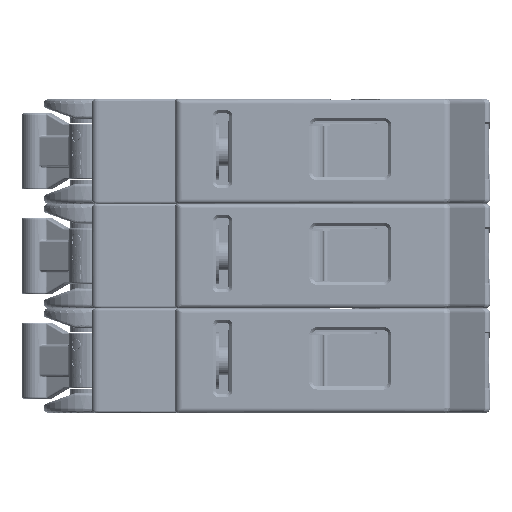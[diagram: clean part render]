
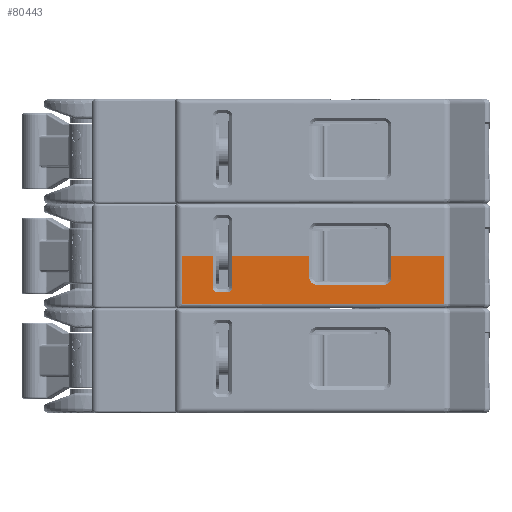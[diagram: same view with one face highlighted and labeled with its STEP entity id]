
A CAD part, left-side view. The second image highlights one B-rep face of the part: STEP entity #80443.
In plain terms, the highlighted planar face has unit normal (-1, 0, 0).
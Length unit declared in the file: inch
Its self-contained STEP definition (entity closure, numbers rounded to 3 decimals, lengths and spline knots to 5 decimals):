
#76316=CARTESIAN_POINT('',(-1.73,-1.231,-0.688));
#76317=VERTEX_POINT('',#76316);
#76325=CARTESIAN_POINT('',(-1.73,-1.231,-0.827));
#76326=VERTEX_POINT('',#76325);
#76333=CARTESIAN_POINT('',(-1.73,-1.231,-0.688));
#76334=DIRECTION('',(0.0,0.0,-1.0));
#76335=VECTOR('',#76334,0.139);
#76336=LINE('',#76333,#76335);
#76337=EDGE_CURVE('',#76317,#76326,#76336,.T.);
#76348=CARTESIAN_POINT('',(-1.73,-1.57461,-0.688));
#76349=VERTEX_POINT('',#76348);
#76350=CARTESIAN_POINT('',(-1.73,-1.57461,-0.688));
#76351=DIRECTION('',(0.0,1.0,0.0));
#76352=VECTOR('',#76351,0.34361);
#76353=LINE('',#76350,#76352);
#76354=EDGE_CURVE('',#76349,#76317,#76353,.T.);
#77318=CARTESIAN_POINT('',(-1.73,-1.18,-0.878));
#77319=VERTEX_POINT('',#77318);
#77320=CARTESIAN_POINT('',(-1.73,-1.18,-0.827));
#77321=DIRECTION('',(1.0,0.0,0.0));
#77322=DIRECTION('',(0.0,0.0,-1.0));
#77323=AXIS2_PLACEMENT_3D('',#77320,#77321,#77322);
#77324=CIRCLE('',#77323,0.051);
#77325=EDGE_CURVE('',#76326,#77319,#77324,.T.);
#80328=CARTESIAN_POINT('',(-1.73,0.19,-0.688));
#80329=DIRECTION('',(-1.0,0.0,0.0));
#80330=DIRECTION('',(0.0,0.0,1.0));
#80331=AXIS2_PLACEMENT_3D('',#80328,#80329,#80330);
#80332=PLANE('',#80331);
#80333=CARTESIAN_POINT('',(-1.73,-0.691,-0.827));
#80334=VERTEX_POINT('',#80333);
#80335=CARTESIAN_POINT('',(-1.73,-0.691,-0.688));
#80336=VERTEX_POINT('',#80335);
#80337=CARTESIAN_POINT('',(-1.73,-0.691,-0.827));
#80338=DIRECTION('',(0.0,0.0,1.0));
#80339=VECTOR('',#80338,0.139);
#80340=LINE('',#80337,#80339);
#80341=EDGE_CURVE('',#80334,#80336,#80340,.T.);
#80342=ORIENTED_EDGE('',*,*,#80341,.T.);
#80343=CARTESIAN_POINT('',(-1.73,-0.186,-0.688));
#80344=VERTEX_POINT('',#80343);
#80345=CARTESIAN_POINT('',(-1.73,-0.691,-0.688));
#80346=DIRECTION('',(0.0,1.0,0.0));
#80347=VECTOR('',#80346,0.505);
#80348=LINE('',#80345,#80347);
#80349=EDGE_CURVE('',#80336,#80344,#80348,.T.);
#80350=ORIENTED_EDGE('',*,*,#80349,.T.);
#80351=CARTESIAN_POINT('',(-1.73,-0.186,-0.888));
#80352=VERTEX_POINT('',#80351);
#80353=CARTESIAN_POINT('',(-1.73,-0.186,-0.688));
#80354=DIRECTION('',(0.0,0.0,-1.0));
#80355=VECTOR('',#80354,0.2);
#80356=LINE('',#80353,#80355);
#80357=EDGE_CURVE('',#80344,#80352,#80356,.T.);
#80358=ORIENTED_EDGE('',*,*,#80357,.T.);
#80359=CARTESIAN_POINT('',(-1.73,-0.146,-0.928));
#80360=VERTEX_POINT('',#80359);
#80361=CARTESIAN_POINT('',(-1.73,-0.146,-0.888));
#80362=DIRECTION('',(1.0,0.0,0.0));
#80363=DIRECTION('',(0.0,0.0,-1.0));
#80364=AXIS2_PLACEMENT_3D('',#80361,#80362,#80363);
#80365=CIRCLE('',#80364,0.04);
#80366=EDGE_CURVE('',#80352,#80360,#80365,.T.);
#80367=ORIENTED_EDGE('',*,*,#80366,.T.);
#80368=CARTESIAN_POINT('',(-1.73,-0.096,-0.928));
#80369=VERTEX_POINT('',#80368);
#80370=CARTESIAN_POINT('',(-1.73,-0.146,-0.928));
#80371=DIRECTION('',(0.0,1.0,0.0));
#80372=VECTOR('',#80371,0.05);
#80373=LINE('',#80370,#80372);
#80374=EDGE_CURVE('',#80360,#80369,#80373,.T.);
#80375=ORIENTED_EDGE('',*,*,#80374,.T.);
#80376=CARTESIAN_POINT('',(-1.73,-0.056,-0.888));
#80377=VERTEX_POINT('',#80376);
#80378=CARTESIAN_POINT('',(-1.73,-0.096,-0.888));
#80379=DIRECTION('',(1.0,0.0,0.0));
#80380=DIRECTION('',(0.0,0.0,-1.0));
#80381=AXIS2_PLACEMENT_3D('',#80378,#80379,#80380);
#80382=CIRCLE('',#80381,0.04);
#80383=EDGE_CURVE('',#80369,#80377,#80382,.T.);
#80384=ORIENTED_EDGE('',*,*,#80383,.T.);
#80385=CARTESIAN_POINT('',(-1.73,-0.056,-0.688));
#80386=VERTEX_POINT('',#80385);
#80387=CARTESIAN_POINT('',(-1.73,-0.056,-0.888));
#80388=DIRECTION('',(0.0,0.0,1.0));
#80389=VECTOR('',#80388,0.2);
#80390=LINE('',#80387,#80389);
#80391=EDGE_CURVE('',#80377,#80386,#80390,.T.);
#80392=ORIENTED_EDGE('',*,*,#80391,.T.);
#80393=CARTESIAN_POINT('',(-1.73,0.143,-0.688));
#80394=VERTEX_POINT('',#80393);
#80395=CARTESIAN_POINT('',(-1.73,-0.056,-0.688));
#80396=DIRECTION('',(0.0,1.0,0.0));
#80397=VECTOR('',#80396,0.199);
#80398=LINE('',#80395,#80397);
#80399=EDGE_CURVE('',#80386,#80394,#80398,.T.);
#80400=ORIENTED_EDGE('',*,*,#80399,.T.);
#80401=CARTESIAN_POINT('',(-1.73,0.143,-1.001));
#80402=VERTEX_POINT('',#80401);
#80403=CARTESIAN_POINT('',(-1.73,0.143,-0.688));
#80404=DIRECTION('',(0.0,0.0,-1.0));
#80405=VECTOR('',#80404,0.313);
#80406=LINE('',#80403,#80405);
#80407=EDGE_CURVE('',#80394,#80402,#80406,.T.);
#80408=ORIENTED_EDGE('',*,*,#80407,.T.);
#80409=CARTESIAN_POINT('',(-1.73,-1.57461,-1.001));
#80410=VERTEX_POINT('',#80409);
#80411=CARTESIAN_POINT('',(-1.73,-1.57461,-1.001));
#80412=DIRECTION('',(0.0,1.0,0.0));
#80413=VECTOR('',#80412,1.71761);
#80414=LINE('',#80411,#80413);
#80415=EDGE_CURVE('',#80410,#80402,#80414,.T.);
#80416=ORIENTED_EDGE('',*,*,#80415,.F.);
#80417=CARTESIAN_POINT('',(-1.73,-1.57461,-1.001));
#80418=DIRECTION('',(0.0,0.,1.0));
#80419=VECTOR('',#80418,0.313);
#80420=LINE('',#80417,#80419);
#80421=EDGE_CURVE('',#80410,#76349,#80420,.T.);
#80422=ORIENTED_EDGE('',*,*,#80421,.T.);
#80423=ORIENTED_EDGE('',*,*,#76354,.T.);
#80424=ORIENTED_EDGE('',*,*,#76337,.T.);
#80425=ORIENTED_EDGE('',*,*,#77325,.T.);
#80426=CARTESIAN_POINT('',(-1.73,-0.742,-0.878));
#80427=VERTEX_POINT('',#80426);
#80428=CARTESIAN_POINT('',(-1.73,-1.18,-0.878));
#80429=DIRECTION('',(0.0,1.0,0.0));
#80430=VECTOR('',#80429,0.438);
#80431=LINE('',#80428,#80430);
#80432=EDGE_CURVE('',#77319,#80427,#80431,.T.);
#80433=ORIENTED_EDGE('',*,*,#80432,.T.);
#80434=CARTESIAN_POINT('',(-1.73,-0.742,-0.827));
#80435=DIRECTION('',(1.0,0.0,0.0));
#80436=DIRECTION('',(0.0,0.0,-1.0));
#80437=AXIS2_PLACEMENT_3D('',#80434,#80435,#80436);
#80438=CIRCLE('',#80437,0.051);
#80439=EDGE_CURVE('',#80427,#80334,#80438,.T.);
#80440=ORIENTED_EDGE('',*,*,#80439,.T.);
#80441=EDGE_LOOP('',(#80342,#80350,#80358,#80367,#80375,#80384,#80392,#80400,#80408,#80416,#80422,#80423,#80424,#80425,#80433,#80440));
#80442=FACE_OUTER_BOUND('',#80441,.T.);
#80443=ADVANCED_FACE('',(#80442),#80332,.T.);
